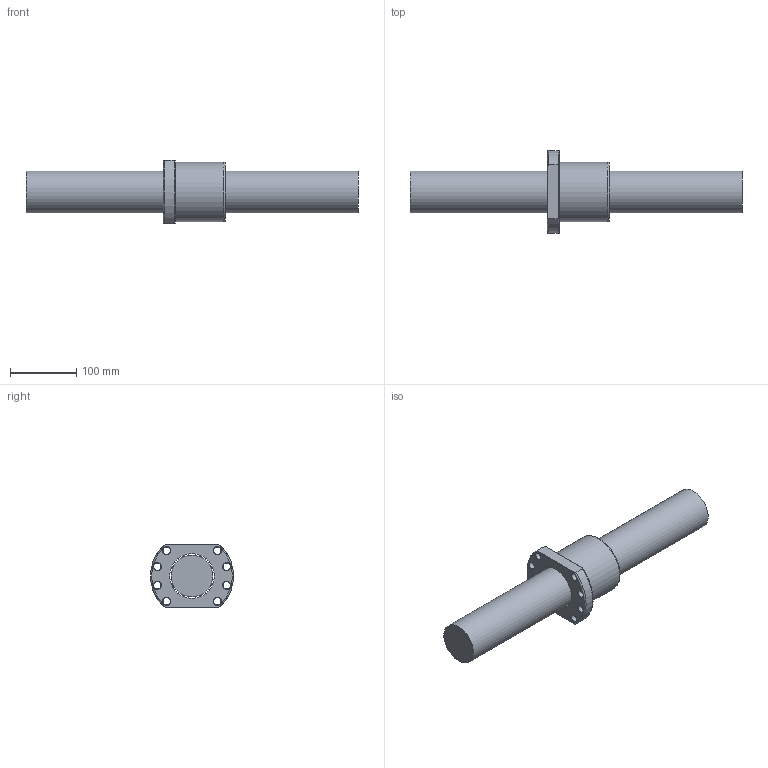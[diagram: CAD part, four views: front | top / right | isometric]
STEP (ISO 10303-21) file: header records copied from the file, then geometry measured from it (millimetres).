
FILE_DESCRIPTION (( 'STEP AP203' ), '1' );
FILE_NAME ('SFNU06310D-4.step', '2024-05-14T06:34:56', ( '' ), ( '' ), 'SwSTEP 2.0', 'SolidWorks 2022', '' );
FILE_SCHEMA (( 'CONFIG_CONTROL_DESIGN' ));
Length unit declared in the file: millimetre
Products named in the file (1): SFNU06310D-4
Bounding box: 500 x 125 x 95 mm (x, y, z)
Volume: 1882595.2 mm3; surface area: 169882.8 mm2
Topology: 2 solids, 2 shells, 60 faces, 155 edges, 100 vertices
Faces by surface type: cylinder 21, cone 17, plane 12, bspline 5, torus 5
Full cylindrical faces by diameter (mm): 4 x1, 7 x6, 11 x8, 63 x1, 67.1 x1, 90 x1
Entity records: 3355 total; most frequent: CARTESIAN_POINT 2193, DIRECTION 214, ORIENTED_EDGE 182, EDGE_LOOP 106, AXIS2_PLACEMENT_3D 99, EDGE_CURVE 91, VERTEX_POINT 75, FACE_OUTER_BOUND 68
